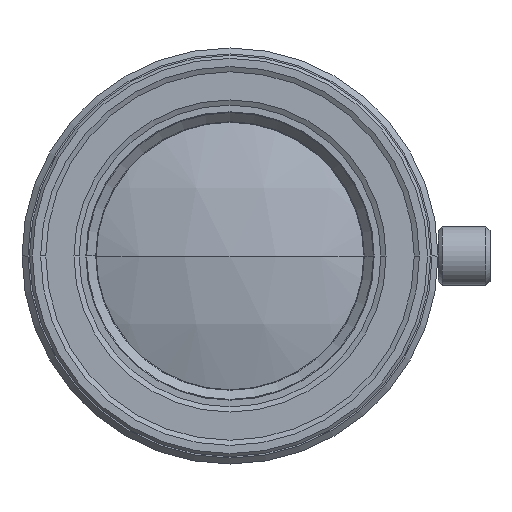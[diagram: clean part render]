
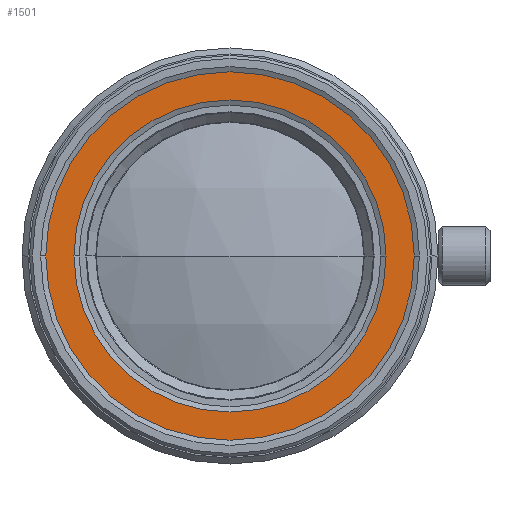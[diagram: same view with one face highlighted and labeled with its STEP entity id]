
A CAD part, left-side view. The second image highlights one B-rep face of the part: STEP entity #1501.
In plain terms, the highlighted planar face has unit normal (-1, 0, 0).
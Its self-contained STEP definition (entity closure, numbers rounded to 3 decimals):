
#286 = VERTEX_POINT ( 'NONE', #1887 ) ;
#433 = ORIENTED_EDGE ( 'NONE', *, *, #4412, .F. ) ;
#599 = VERTEX_POINT ( 'NONE', #6122 ) ;
#779 = CARTESIAN_POINT ( 'NONE',  ( -66.355, 0., 0. ) ) ;
#824 = FACE_OUTER_BOUND ( 'NONE', #7724, .T. ) ;
#981 = DIRECTION ( 'NONE',  ( 0., 1., 0. ) ) ;
#1151 = AXIS2_PLACEMENT_3D ( 'NONE', #1222, #8331, #5222 ) ;
#1222 = CARTESIAN_POINT ( 'NONE',  ( -66.355, 0., 0. ) ) ;
#1501 = ADVANCED_FACE ( 'NONE', ( #5363, #824 ), #3431, .F. ) ;
#1659 = DIRECTION ( 'NONE',  ( 0., -1., 0. ) ) ;
#1763 = EDGE_CURVE ( 'NONE', #5206, #2679, #3233, .T. ) ;
#1887 = CARTESIAN_POINT ( 'NONE',  ( -66.355, -12.75, 0. ) ) ;
#1988 = CARTESIAN_POINT ( 'NONE',  ( -66.355, 10.5, 0. ) ) ;
#2408 = EDGE_CURVE ( 'NONE', #599, #286, #4345, .T. ) ;
#2679 = VERTEX_POINT ( 'NONE', #7812 ) ;
#2703 = ORIENTED_EDGE ( 'NONE', *, *, #7546, .T. ) ;
#3157 = CIRCLE ( 'NONE', #4807, 10.5 ) ;
#3233 = CIRCLE ( 'NONE', #8166, 10.5 ) ;
#3431 = PLANE ( 'NONE',  #7058 ) ;
#3867 = DIRECTION ( 'NONE',  ( -1., 0., 0. ) ) ;
#4149 = ORIENTED_EDGE ( 'NONE', *, *, #2408, .T. ) ;
#4292 = CARTESIAN_POINT ( 'NONE',  ( -66.355, 0., 0. ) ) ;
#4345 = CIRCLE ( 'NONE', #6936, 12.75 ) ;
#4412 = EDGE_CURVE ( 'NONE', #2679, #5206, #3157, .T. ) ;
#4711 = ORIENTED_EDGE ( 'NONE', *, *, #1763, .F. ) ;
#4779 = CARTESIAN_POINT ( 'NONE',  ( -66.355, 0., 0. ) ) ;
#4804 = DIRECTION ( 'NONE',  ( 1., 0., 0. ) ) ;
#4807 = AXIS2_PLACEMENT_3D ( 'NONE', #4779, #6666, #6792 ) ;
#5206 = VERTEX_POINT ( 'NONE', #1988 ) ;
#5222 = DIRECTION ( 'NONE',  ( 0., -1., 0. ) ) ;
#5363 = FACE_BOUND ( 'NONE', #8427, .T. ) ;
#5409 = CIRCLE ( 'NONE', #1151, 12.75 ) ;
#6122 = CARTESIAN_POINT ( 'NONE',  ( -66.355, 12.75, 0. ) ) ;
#6666 = DIRECTION ( 'NONE',  ( -1., 0., 0. ) ) ;
#6792 = DIRECTION ( 'NONE',  ( 0., -1., 0. ) ) ;
#6936 = AXIS2_PLACEMENT_3D ( 'NONE', #779, #3867, #1659 ) ;
#6939 = DIRECTION ( 'NONE',  ( -1., 0., 0. ) ) ;
#7058 = AXIS2_PLACEMENT_3D ( 'NONE', #4292, #4804, #981 ) ;
#7510 = CARTESIAN_POINT ( 'NONE',  ( -66.355, 0., 0. ) ) ;
#7546 = EDGE_CURVE ( 'NONE', #286, #599, #5409, .T. ) ;
#7724 = EDGE_LOOP ( 'NONE', ( #2703, #4149 ) ) ;
#7812 = CARTESIAN_POINT ( 'NONE',  ( -66.355, -10.5, 0. ) ) ;
#8166 = AXIS2_PLACEMENT_3D ( 'NONE', #7510, #6939, #8262 ) ;
#8262 = DIRECTION ( 'NONE',  ( 0., -1., 0. ) ) ;
#8331 = DIRECTION ( 'NONE',  ( -1., 0., 0. ) ) ;
#8427 = EDGE_LOOP ( 'NONE', ( #433, #4711 ) ) ;
